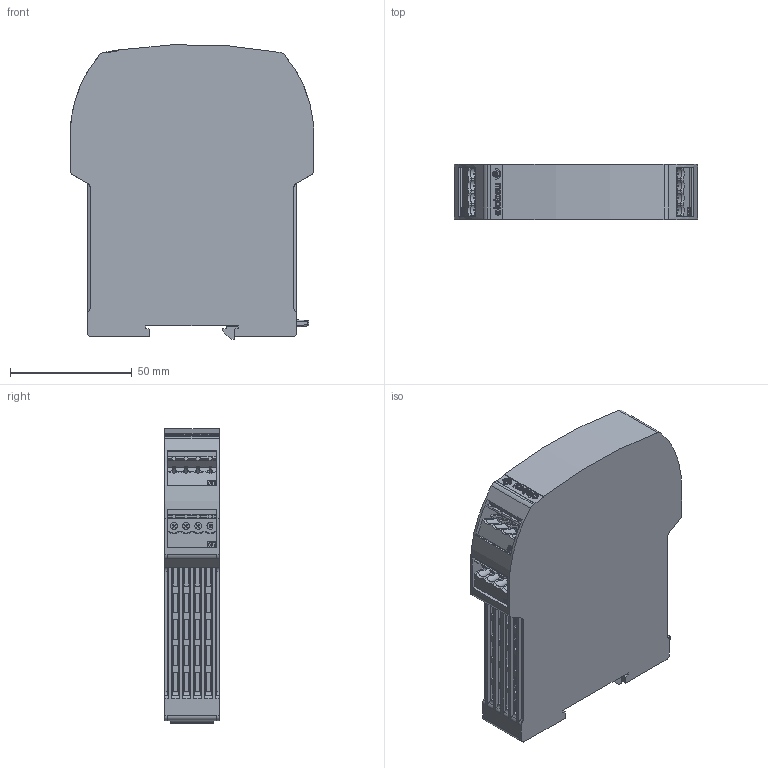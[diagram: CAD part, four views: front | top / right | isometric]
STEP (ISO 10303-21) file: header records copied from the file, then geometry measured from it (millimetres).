
FILE_DESCRIPTION(/* description */ ('Katalogmodell Elobau'),/* implementation_level */ '2;1');
FILE_NAME(/* name */ 'Katalogdaten.stp',/* time_stamp */ '2014-10-07T14:37:35+02:00',/* author */ ('Elobau GmbH & Co. KG'),/* organization */ ('Elobau GmbH & Co. KG'),/* preprocessor_version */ 'ST-DEVELOPER v15',/* originating_system */ 'SIEMENS PLM Software NX 8.5',/* authorisation */ '');
FILE_SCHEMA (('AUTOMOTIVE_DESIGN { 1 0 10303 214 3 1 1 1 }'));
Length unit declared in the file: millimetre
Products named in the file (1): 47011.B1_A
Bounding box: 100 x 22.5 x 120.84 mm (x, y, z)
Volume: 228223.9 mm3; surface area: 35084.3 mm2
Topology: 1 solids, 2 shells, 1222 faces, 3357 edges, 2225 vertices
Faces by surface type: plane 746, cylinder 334, revolution 88, bspline 54
Full cylindrical faces by diameter (mm): 2.8 x12
Entity records: 44376 total; most frequent: CARTESIAN_POINT 10196, ORIENTED_EDGE 6650, DIRECTION 5891, EDGE_CURVE 3325, LINE 2233, VECTOR 2233, VERTEX_POINT 2213, AXIS2_PLACEMENT_3D 1785
